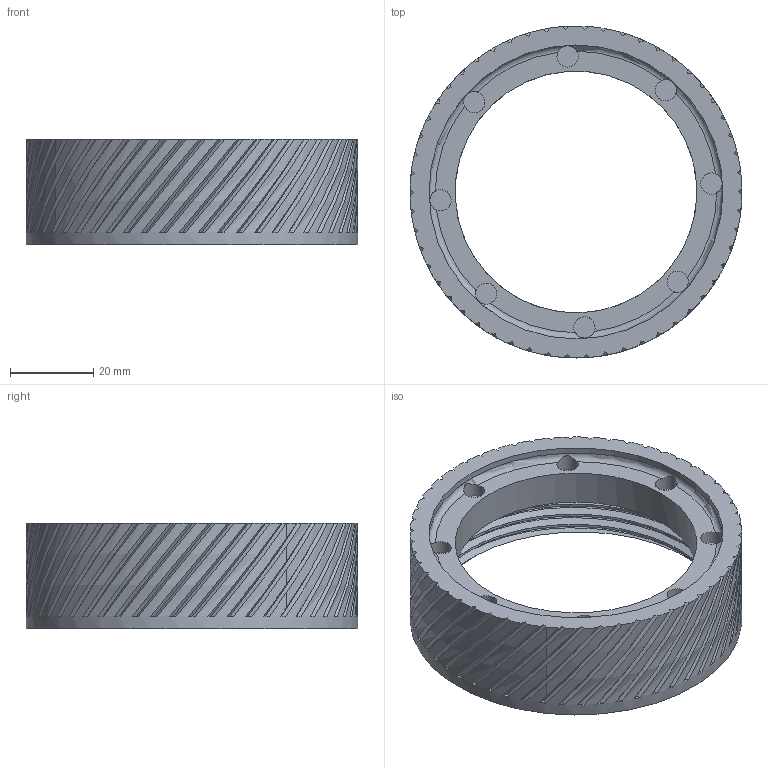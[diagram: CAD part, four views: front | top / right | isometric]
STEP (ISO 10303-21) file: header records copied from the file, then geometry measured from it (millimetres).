
FILE_DESCRIPTION(/* description */ ('STEP AP242','CAx-IF Rec.Pracs.---Representation and Presentation of Product Manufacturing Information (PMI)---4.0---2014-10-13','CAx-IF Rec.Pracs.---3D Tessellated Geometry---0.4---2014-09-14','2;1'),/* implementation_level */ '2;1');
FILE_NAME(/* name */ '6469239dcac4670533c204df',/* time_stamp */ '2023-05-20T19:46:37Z',/* author */ (''),/* organization */ (''),/* preprocessor_version */ 'ST-DEVELOPER v19.4',/* originating_system */ ' ',/* authorisation */ ' ');
FILE_SCHEMA (('AP242_MANAGED_MODEL_BASED_3D_ENGINEERING_MIM_LF { 1 0 10303 442 1 1 4 }'));
Length unit declared in the file: metre
Products named in the file (1): Base 22mm Magnet NoLug
Bounding box: 79.6 x 79.6 x 25.4 mm (x, y, z)
Volume: 36596.6 mm3; surface area: 18578 mm2
Topology: 1 solids, 1 shells, 245 faces, 721 edges, 481 vertices
Faces by surface type: bspline 149, plane 76, cylinder 16, cone 3, torus 1
Full cylindrical faces by diameter (mm): 5.1 x8, 58 x1, 70.5 x1, 79.6 x1
Entity records: 14655 total; most frequent: CARTESIAN_POINT 9904, ORIENTED_EDGE 1368, EDGE_CURVE 684, DIRECTION 516, VERTEX_POINT 461, B_SPLINE_CURVE_WITH_KNOTS 333, EDGE_LOOP 259, FACE_BOUND 259
